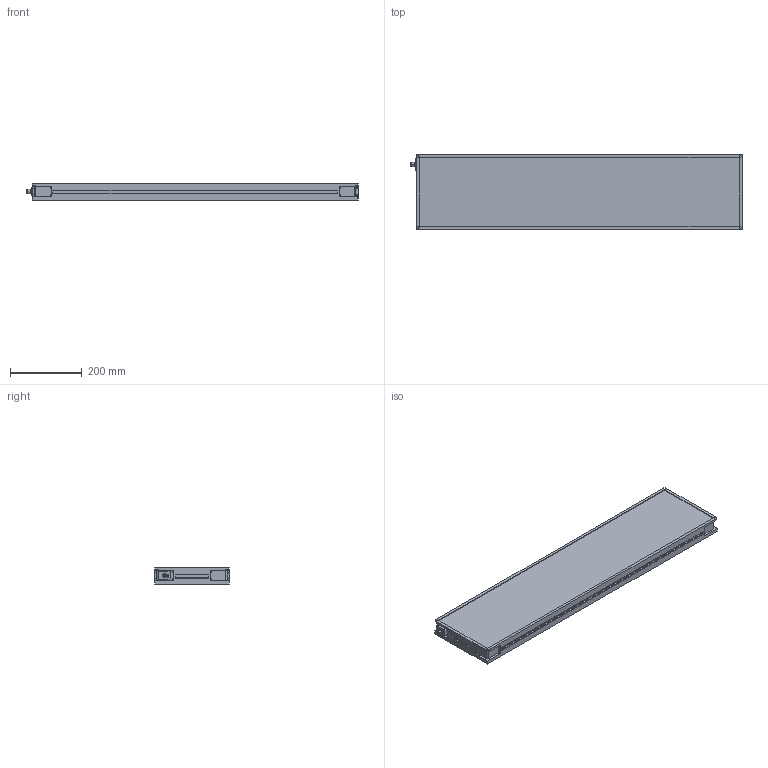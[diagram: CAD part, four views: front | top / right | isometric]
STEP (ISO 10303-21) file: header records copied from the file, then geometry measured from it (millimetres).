
FILE_DESCRIPTION (( 'STEP AP214' ), '1' );
FILE_NAME ('MBACK-xxxx-xxx-M1_CLIENT200x900.STEP', '2022-03-31T15:59:34', ( '' ), ( '' ), 'SwSTEP 2.0', 'SolidWorks 2020', '' );
FILE_SCHEMA (( 'AUTOMOTIVE_DESIGN' ));
Length unit declared in the file: millimetre
Products named in the file (1): MBACK-xxxx-xxx-M1_CLIENT200x900
Bounding box: 925.9 x 208 x 45.5 mm (x, y, z)
Volume: 7796383.7 mm3; surface area: 525797.4 mm2
Topology: 1 solids, 1 shells, 442 faces, 1144 edges, 760 vertices
Faces by surface type: plane 249, cylinder 105, bspline 80, cone 8
Entity records: 17236 total; most frequent: CARTESIAN_POINT 6699, ORIENTED_EDGE 2288, DIRECTION 1936, EDGE_CURVE 1144, VERTEX_POINT 760, LINE 758, VECTOR 758, AXIS2_PLACEMENT_3D 589
